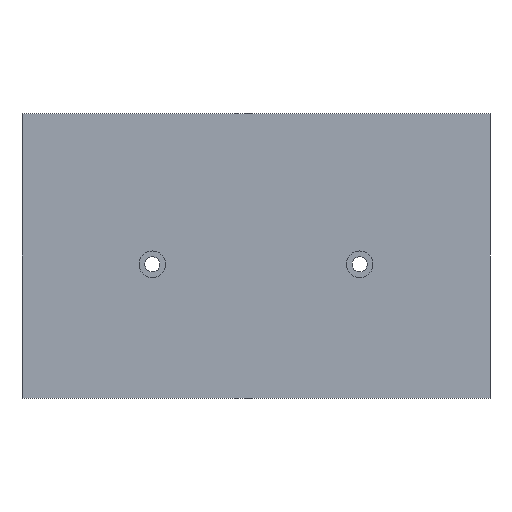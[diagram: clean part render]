
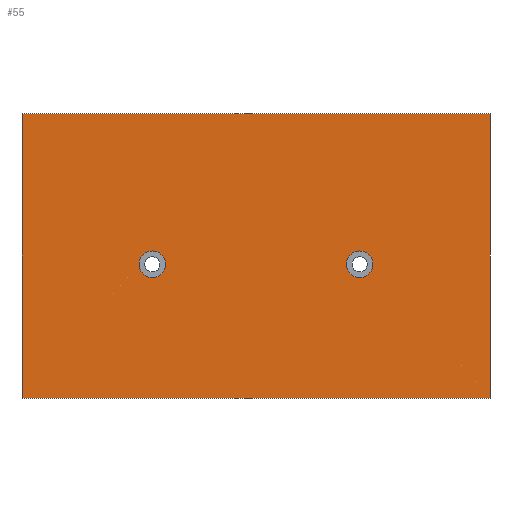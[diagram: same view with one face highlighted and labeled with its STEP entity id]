
A CAD part, front view. The second image highlights one B-rep face of the part: STEP entity #55.
In plain terms, the highlighted planar face has unit normal (0, -1, 0).
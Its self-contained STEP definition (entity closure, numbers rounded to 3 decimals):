
#9 = EDGE_CURVE ( 'NONE', #188, #182, #514, .T. ) ;
#33 = PLANE ( 'NONE',  #406 ) ;
#46 = CIRCLE ( 'NONE', #202, 4. ) ;
#55 = ADVANCED_FACE ( 'NONE', ( #520, #453, #408 ), #33, .T. ) ;
#68 = CARTESIAN_POINT ( 'NONE',  ( -31., 0., -6.5 ) ) ;
#73 = ORIENTED_EDGE ( 'NONE', *, *, #418, .F. ) ;
#75 = VECTOR ( 'NONE', #181, 1000. ) ;
#77 = CARTESIAN_POINT ( 'NONE',  ( 70., 0., -42.5 ) ) ;
#84 = LINE ( 'NONE', #77, #75 ) ;
#93 = VECTOR ( 'NONE', #159, 1000. ) ;
#110 = EDGE_LOOP ( 'NONE', ( #545, #375, #620, #256 ) ) ;
#121 = CARTESIAN_POINT ( 'NONE',  ( 31., 0., -2.5 ) ) ;
#122 = EDGE_CURVE ( 'NONE', #677, #606, #46, .T. ) ;
#144 = AXIS2_PLACEMENT_3D ( 'NONE', #645, #307, #529 ) ;
#157 = CARTESIAN_POINT ( 'NONE',  ( -70., 0., 42.5 ) ) ;
#159 = DIRECTION ( 'NONE',  ( 0., 0., 1. ) ) ;
#179 = EDGE_CURVE ( 'NONE', #630, #507, #84, .T. ) ;
#181 = DIRECTION ( 'NONE',  ( 0., 0., 1. ) ) ;
#182 = VERTEX_POINT ( 'NONE', #561 ) ;
#188 = VERTEX_POINT ( 'NONE', #68 ) ;
#196 = CARTESIAN_POINT ( 'NONE',  ( -70., 0., -42.5 ) ) ;
#202 = AXIS2_PLACEMENT_3D ( 'NONE', #121, #509, #351 ) ;
#216 = EDGE_LOOP ( 'NONE', ( #393, #682 ) ) ;
#228 = CARTESIAN_POINT ( 'NONE',  ( -70., 0., -42.5 ) ) ;
#237 = VERTEX_POINT ( 'NONE', #157 ) ;
#242 = VECTOR ( 'NONE', #669, 1000. ) ;
#251 = CARTESIAN_POINT ( 'NONE',  ( 0., 0., 0. ) ) ;
#256 = ORIENTED_EDGE ( 'NONE', *, *, #473, .F. ) ;
#274 = CARTESIAN_POINT ( 'NONE',  ( -31., 0., -2.5 ) ) ;
#278 = CARTESIAN_POINT ( 'NONE',  ( -70., 0., -42.5 ) ) ;
#280 = DIRECTION ( 'NONE',  ( 0., 0., -1. ) ) ;
#292 = EDGE_CURVE ( 'NONE', #182, #188, #566, .T. ) ;
#303 = DIRECTION ( 'NONE',  ( 0., 0., -1. ) ) ;
#307 = DIRECTION ( 'NONE',  ( 0., -1., 0. ) ) ;
#313 = LINE ( 'NONE', #196, #484 ) ;
#340 = AXIS2_PLACEMENT_3D ( 'NONE', #597, #601, #280 ) ;
#343 = CARTESIAN_POINT ( 'NONE',  ( -70., 0., 42.5 ) ) ;
#351 = DIRECTION ( 'NONE',  ( 0., 0., -1. ) ) ;
#355 = EDGE_LOOP ( 'NONE', ( #465, #73 ) ) ;
#375 = ORIENTED_EDGE ( 'NONE', *, *, #179, .T. ) ;
#383 = AXIS2_PLACEMENT_3D ( 'NONE', #274, #494, #663 ) ;
#393 = ORIENTED_EDGE ( 'NONE', *, *, #9, .F. ) ;
#406 = AXIS2_PLACEMENT_3D ( 'NONE', #251, #517, #303 ) ;
#408 = FACE_OUTER_BOUND ( 'NONE', #110, .T. ) ;
#418 = EDGE_CURVE ( 'NONE', #606, #677, #654, .T. ) ;
#427 = VERTEX_POINT ( 'NONE', #278 ) ;
#428 = CARTESIAN_POINT ( 'NONE',  ( 31., 0., -6.5 ) ) ;
#452 = LINE ( 'NONE', #343, #242 ) ;
#453 = FACE_BOUND ( 'NONE', #355, .T. ) ;
#465 = ORIENTED_EDGE ( 'NONE', *, *, #122, .F. ) ;
#473 = EDGE_CURVE ( 'NONE', #427, #237, #503, .T. ) ;
#474 = CARTESIAN_POINT ( 'NONE',  ( 31., 0., 1.5 ) ) ;
#484 = VECTOR ( 'NONE', #537, 1000. ) ;
#492 = EDGE_CURVE ( 'NONE', #237, #507, #452, .T. ) ;
#494 = DIRECTION ( 'NONE',  ( 0., -1., 0. ) ) ;
#503 = LINE ( 'NONE', #228, #93 ) ;
#507 = VERTEX_POINT ( 'NONE', #511 ) ;
#509 = DIRECTION ( 'NONE',  ( 0., -1., 0. ) ) ;
#511 = CARTESIAN_POINT ( 'NONE',  ( 70., 0., 42.5 ) ) ;
#514 = CIRCLE ( 'NONE', #383, 4. ) ;
#517 = DIRECTION ( 'NONE',  ( 0., -1., 0. ) ) ;
#520 = FACE_BOUND ( 'NONE', #216, .T. ) ;
#528 = CARTESIAN_POINT ( 'NONE',  ( 70., 0., -42.5 ) ) ;
#529 = DIRECTION ( 'NONE',  ( 0., 0., -1. ) ) ;
#537 = DIRECTION ( 'NONE',  ( 1., 0., 0. ) ) ;
#545 = ORIENTED_EDGE ( 'NONE', *, *, #600, .T. ) ;
#561 = CARTESIAN_POINT ( 'NONE',  ( -31., 0., 1.5 ) ) ;
#566 = CIRCLE ( 'NONE', #144, 4. ) ;
#597 = CARTESIAN_POINT ( 'NONE',  ( 31., 0., -2.5 ) ) ;
#600 = EDGE_CURVE ( 'NONE', #427, #630, #313, .T. ) ;
#601 = DIRECTION ( 'NONE',  ( 0., -1., 0. ) ) ;
#606 = VERTEX_POINT ( 'NONE', #474 ) ;
#620 = ORIENTED_EDGE ( 'NONE', *, *, #492, .F. ) ;
#630 = VERTEX_POINT ( 'NONE', #528 ) ;
#645 = CARTESIAN_POINT ( 'NONE',  ( -31., 0., -2.5 ) ) ;
#654 = CIRCLE ( 'NONE', #340, 4. ) ;
#663 = DIRECTION ( 'NONE',  ( 0., 0., -1. ) ) ;
#669 = DIRECTION ( 'NONE',  ( 1., 0., 0. ) ) ;
#677 = VERTEX_POINT ( 'NONE', #428 ) ;
#682 = ORIENTED_EDGE ( 'NONE', *, *, #292, .F. ) ;
